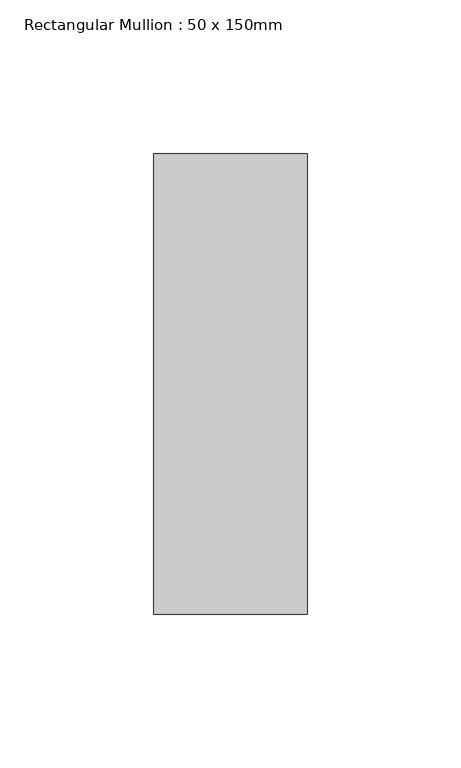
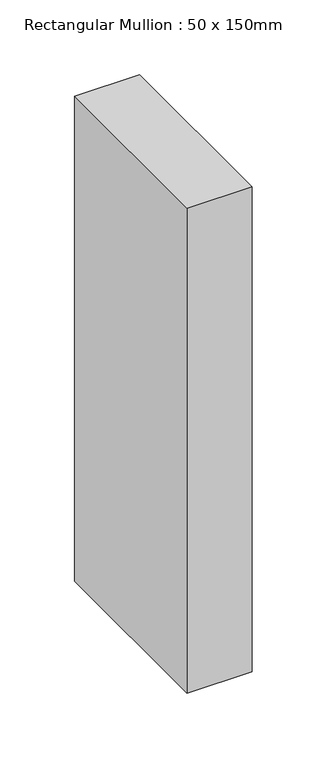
"""IFC4 building model written with IfcOpenShell, lengths in millimetres: member geometry, Rectangular Mullion : 50 x 150mm."""

import ifcopenshell
import ifcopenshell.guid

model = None  # the IFC model being written
_history = None  # IfcOwnerHistory: only IFC2X3 demands one
_inside = {}  # id of a spatial element -> (the spatial element, [elements in it])
_under = {}  # id of a project, library or spatial element -> (it, [spatial elements below it])
_declared = {}  # id of a project -> (the project, [libraries it declares])
_typed = {}  # id of a type object -> (the type object, [elements of that type])
_made_of = {}  # id of a material, layer set ... -> (it, [elements and type objects made of it])


def new_model(schema):
    """Start an empty IFC model of exactly this schema.

    Asked for "IFC4X3", IfcOpenShell would pick the latest addendum, in which some entities
    have other attributes; the version numbers below select the first issue.
    IFC2X3 requires an IfcOwnerHistory on every rooted entity: one is made here for all.
    """
    global model, _history
    if schema == "IFC4X3":
        model = ifcopenshell.file(schema_version=(4, 3, 0, 0))
    else:
        model = ifcopenshell.file(schema=schema)
    _inside.clear()
    _under.clear()
    _declared.clear()
    _typed.clear()
    _made_of.clear()
    _history = None
    if model.schema == "IFC2X3":
        org = make("IfcOrganization", Name="unknown")
        user = make(
            "IfcPersonAndOrganization",
            ThePerson=make("IfcPerson", FamilyName="unknown"),
            TheOrganization=org,
        )
        app = make(
            "IfcApplication",
            ApplicationDeveloper=org,
            Version="unknown",
            ApplicationFullName="unknown",
            ApplicationIdentifier="unknown",
        )
        _history = make(
            "IfcOwnerHistory",
            OwningUser=user,
            OwningApplication=app,
            ChangeAction="ADDED",
            CreationDate=0,
        )
    return model


def make(cls, **values):
    """One entity of the class cls with the attributes given. An attribute that is None is left unset."""
    return model.create_entity(
        cls, **{name: value for name, value in values.items() if value is not None}
    )


def rooted(cls, **values):
    """An entity with a GlobalId (a new one), such as an element, a storey or a relation."""
    return make(cls, GlobalId=ifcopenshell.guid.new(), OwnerHistory=_history, **values)


def si_unit(unit_type, name, prefix=None):
    """IfcSIUnit, for example si_unit("LENGTHUNIT", "METRE", prefix="MILLI")."""
    return make("IfcSIUnit", UnitType=unit_type, Prefix=prefix, Name=name)


def assignment(units):
    """IfcUnitAssignment: the units of a project."""
    return None if units is None else make("IfcUnitAssignment", Units=units)


def point(xyz):
    """IfcCartesianPoint."""
    return None if xyz is None else make("IfcCartesianPoint", Coordinates=xyz)


def direction(xyz):
    """IfcDirection."""
    return None if xyz is None else make("IfcDirection", DirectionRatios=xyz)


def frame(location, z_axis=None, x_axis=None):
    """IfcAxis2Placement3D, a coordinate frame: its origin and axes. An axis left out is left unset."""
    return make(
        "IfcAxis2Placement3D",
        Location=point(location),
        Axis=direction(z_axis),
        RefDirection=direction(x_axis),
    )


def origin():
    """The frame at (0, 0, 0) with its axes left unset."""
    return frame((0.0, 0.0, 0.0))


def place(relative_to, where):
    """IfcLocalPlacement: puts the frame where relative to a parent placement (None: the world)."""
    return make(
        "IfcLocalPlacement", PlacementRelTo=relative_to, RelativePlacement=where
    )


def context(
    kind, dimensions, precision=None, world=None, true_north=None, identifier=None
):
    """IfcGeometricRepresentationContext, for example the 3D "Model" context."""
    return make(
        "IfcGeometricRepresentationContext",
        ContextIdentifier=identifier,
        ContextType=kind,
        CoordinateSpaceDimension=dimensions,
        Precision=precision,
        WorldCoordinateSystem=world,
        TrueNorth=true_north,
    )


def project(units=None, contexts=None):
    """IfcProject with its units and contexts."""
    return rooted(
        "IfcProject",
        Name="project",
        RepresentationContexts=contexts,
        UnitsInContext=assignment(units),
    )


def spatial(cls, under=None, at=None, **own):
    """A site, building, storey or space (cls), placed at a placement, below another one or the project."""
    s = rooted(cls, ObjectPlacement=at, **own)
    if under is not None:
        _under.setdefault(under.id(), (under, []))[1].append(s)
    return s


def polyline(points):
    """IfcPolyline through the points."""
    return make("IfcPolyline", Points=[point(p) for p in points])


def outline(outer, holes=None, kind="AREA"):
    """IfcArbitraryClosedProfileDef: a profile drawn as a closed curve; with holes, ...WithVoids."""
    if holes is None:
        return make("IfcArbitraryClosedProfileDef", ProfileType=kind, OuterCurve=outer)
    return make(
        "IfcArbitraryProfileDefWithVoids",
        ProfileType=kind,
        OuterCurve=outer,
        InnerCurves=holes,
    )


def extrude(swept, where, along, depth):
    """IfcExtrudedAreaSolid: the profile swept, set in the frame where, extruded along a direction by depth."""
    return make(
        "IfcExtrudedAreaSolid",
        SweptArea=swept,
        Position=where,
        ExtrudedDirection=direction(along),
        Depth=depth,
    )


def shape(context_of_items, identifier, shape_type, items):
    """IfcShapeRepresentation: the items that make up one representation, for example the "Body"."""
    return make(
        "IfcShapeRepresentation",
        ContextOfItems=context_of_items,
        RepresentationIdentifier=identifier,
        RepresentationType=shape_type,
        Items=items,
    )


def source(mapping_origin, context_of_items, identifier, shape_type, items):
    """IfcRepresentationMap: a shape defined once, which mapped items show again and again."""
    return make(
        "IfcRepresentationMap",
        MappingOrigin=mapping_origin,
        MappedRepresentation=shape(context_of_items, identifier, shape_type, items),
    )


def transform(
    local_origin,
    x_axis=None,
    y_axis=None,
    z_axis=None,
    scale=None,
    scale2=None,
    scale3=None,
    uniform=True,
):
    """IfcCartesianTransformationOperator3D, or its non-uniform kind. x_axis, y_axis, z_axis: its Axis1, 2, 3."""
    if uniform:
        return make(
            "IfcCartesianTransformationOperator3D",
            Axis1=direction(x_axis),
            Axis2=direction(y_axis),
            LocalOrigin=point(local_origin),
            Scale=scale,
            Axis3=direction(z_axis),
        )
    return make(
        "IfcCartesianTransformationOperator3DnonUniform",
        Axis1=direction(x_axis),
        Axis2=direction(y_axis),
        LocalOrigin=point(local_origin),
        Scale=scale,
        Axis3=direction(z_axis),
        Scale2=scale2,
        Scale3=scale3,
    )


def mapped(mapping_source, mapping_target):
    """IfcMappedItem: shows the shape of a source again, moved by a transform."""
    return make(
        "IfcMappedItem", MappingSource=mapping_source, MappingTarget=mapping_target
    )


def made_of(thing, what):
    """Note that an element or type object is made of a material, layer set ...; save() writes the relation."""
    if what is not None:
        _made_of.setdefault(what.id(), (what, []))[1].append(thing)
    return thing


def element(
    cls,
    number,
    at=None,
    inside=None,
    cuts=None,
    type_object=None,
    material=None,
    context=None,
    identifier="Body",
    shape_type=None,
    held_by="IfcProductDefinitionShape",
    body=None,
    shapes=None,
    **own,
):
    """One element of the class cls, such as IfcWall. Its Tag is "e" and its number.

    at: its placement. inside: the storey or other place that contains it. cuts: it is an
    opening in that element (IfcRelVoidsElement). A single representation is given by context,
    identifier, shape_type and body (its items); several are given by shapes. held_by: the class
    of the entity that holds the representations. save() writes the other relations.
    """
    e = rooted(cls, Tag="e%d" % number, ObjectPlacement=at, **own)
    if body is not None:
        shapes = [shape(context, identifier, shape_type, body)]
    if shapes is not None:
        e.Representation = make(held_by, Representations=shapes)
    if inside is not None:
        _inside.setdefault(inside.id(), (inside, []))[1].append(e)
    if cuts is not None:
        rooted(
            "IfcRelVoidsElement", RelatingBuildingElement=cuts, RelatedOpeningElement=e
        )
    if type_object is not None:
        _typed.setdefault(type_object.id(), (type_object, []))[1].append(e)
    return made_of(e, material)


def aggregate(whole, parts):
    """IfcRelAggregates: a whole, such as a stair, and the parts it consists of."""
    return rooted("IfcRelAggregates", RelatingObject=whole, RelatedObjects=parts)


def save(model, path):
    """Write the relations noted so far, then the file.

    IfcRelAggregates (storeys below a building ...), IfcRelContainedInSpatialStructure (elements
    in a storey), IfcRelDefinesByType, IfcRelAssociatesMaterial and IfcRelDeclares: one each for
    every whole, place, type object, material and project.
    """
    for whole, parts in _under.values():
        aggregate(whole, parts)
    for where, things in _inside.values():
        rooted(
            "IfcRelContainedInSpatialStructure",
            RelatedElements=things,
            RelatingStructure=where,
        )
    for kind, things in _typed.values():
        rooted("IfcRelDefinesByType", RelatedObjects=things, RelatingType=kind)
    for what, things in _made_of.values():
        rooted("IfcRelAssociatesMaterial", RelatedObjects=things, RelatingMaterial=what)
    for by, libraries in _declared.values():
        rooted("IfcRelDeclares", RelatingContext=by, RelatedDefinitions=libraries)
    model.write(path)


def rectangular_mullion_50_x_150mm_628d028e(model_context):
    return source(origin(), model_context, "Body", "SweptSolid", [
        extrude(outline(polyline([(0.0, 75.0), (0.0, -75.0), (-50.0, -75.0), (-50.0, 75.0), (0.0, 75.0)])), frame((0.0, 0.0, -394.7425895), z_axis=(0.0, 0.0, 1.0), x_axis=(1.0, 0.0, 0.0)), (0.0, 0.0, 1.0), 394.7425895),
    ])


if __name__ == "__main__":
    model = new_model("IFC4")
    model_context = context("Model", 3, world=origin())
    ifc_project = project(units=[si_unit("LENGTHUNIT", "METRE", prefix="MILLI")], contexts=[model_context])
    site = spatial("IfcSite", under=ifc_project)
    building = spatial("IfcBuilding", under=site)
    placement = place(None, origin())
    rectangular_mullion_50_x_150mm_shape = rectangular_mullion_50_x_150mm_628d028e(model_context)
    element("IfcMember", 1, ObjectType="Rectangular Mullion : 50 x 150mm", at=placement, inside=building, context=model_context, shape_type="MappedRepresentation", body=[
        mapped(rectangular_mullion_50_x_150mm_shape, transform((0.0, 0.0, 0.0), x_axis=(1.0, 0.0, 0.0), y_axis=(0.0, 1.0, 0.0), z_axis=(0.0, 0.0, 1.0))),
    ])
    save(model, "model.ifc")
